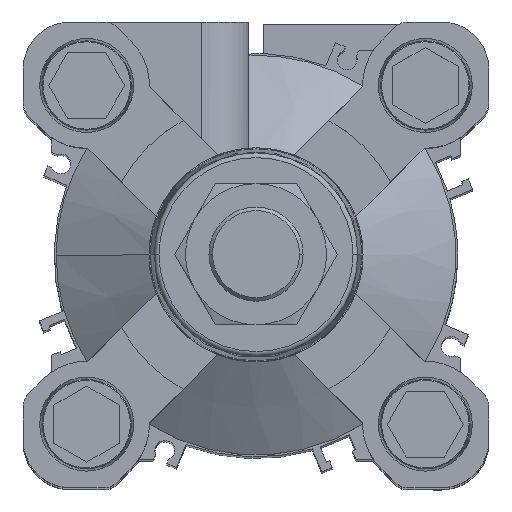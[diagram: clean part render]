
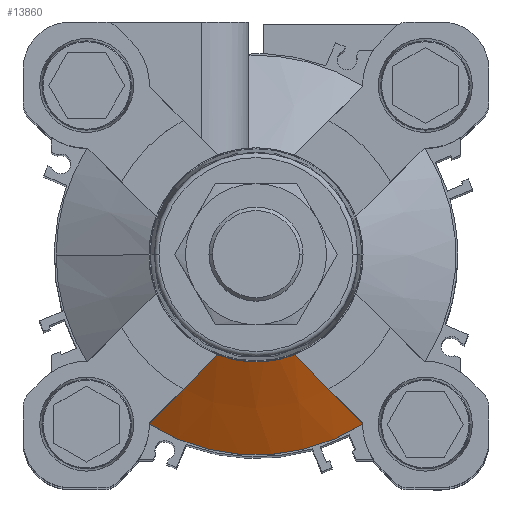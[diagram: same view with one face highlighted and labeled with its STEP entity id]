
A CAD part, top view. The second image highlights one B-rep face of the part: STEP entity #13860.
In plain terms, the highlighted conical face has half-angle 60 degrees and reference radius 42.5 mm.
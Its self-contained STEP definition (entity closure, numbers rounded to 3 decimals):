
#30 = CARTESIAN_POINT ( 'NONE',  ( 22.65, -35.961, 7.997 ) ) ;
#647 = B_SPLINE_CURVE_WITH_KNOTS ( 'NONE', 3,
 ( #6529, #1063, #13430, #5937, #4843, #8034 ),
 .UNSPECIFIED., .F., .F.,
 ( 4, 2, 4 ),
 ( 0., 0.012, 0.023 ),
 .UNSPECIFIED. ) ;
#701 = FACE_OUTER_BOUND ( 'NONE', #12477, .T. ) ;
#769 = ORIENTED_EDGE ( 'NONE', *, *, #5330, .F. ) ;
#788 = AXIS2_PLACEMENT_3D ( 'NONE', #10344, #7976, #11352 ) ;
#1063 = CARTESIAN_POINT ( 'NONE',  ( 10.596, -23.678, 17.58 ) ) ;
#1146 = CARTESIAN_POINT ( 'NONE',  ( -8.156, -21.238, 19.4 ) ) ;
#1439 = EDGE_CURVE ( 'NONE', #11637, #5550, #3741, .T. ) ;
#1718 = CARTESIAN_POINT ( 'NONE',  ( 22.653, -35.734, 8.107 ) ) ;
#1836 = DIRECTION ( 'NONE',  ( 0., 0., -1. ) ) ;
#2033 = EDGE_CURVE ( 'NONE', #7411, #7585, #2295, .T. ) ;
#2295 = B_SPLINE_CURVE_WITH_KNOTS ( 'NONE', 3,
 ( #8158, #12629, #11480, #8235 ),
 .UNSPECIFIED., .F., .F.,
 ( 4, 4 ),
 ( 0., 0. ),
 .UNSPECIFIED. ) ;
#3741 = CIRCLE ( 'NONE', #9965, 22.75 ) ;
#4482 = CARTESIAN_POINT ( 'NONE',  ( 22.651, -35.81, 8.071 ) ) ;
#4843 = CARTESIAN_POINT ( 'NONE',  ( 20.249, -33.331, 10.022 ) ) ;
#5177 = CARTESIAN_POINT ( 'NONE',  ( 8.156, -21.238, 19.4 ) ) ;
#5330 = EDGE_CURVE ( 'NONE', #6929, #7411, #11840, .T. ) ;
#5468 = CARTESIAN_POINT ( 'NONE',  ( -17.843, -30.924, 11.929 ) ) ;
#5550 = VERTEX_POINT ( 'NONE', #13859 ) ;
#5827 = CARTESIAN_POINT ( 'NONE',  ( -22.653, -35.734, 8.107 ) ) ;
#5937 = CARTESIAN_POINT ( 'NONE',  ( 17.843, -30.924, 11.929 ) ) ;
#6207 = DIRECTION ( 'NONE',  ( 0., 0., -1. ) ) ;
#6377 = ORIENTED_EDGE ( 'NONE', *, *, #11440, .F. ) ;
#6465 = CARTESIAN_POINT ( 'NONE',  ( -13.016, -26.097, 15.707 ) ) ;
#6485 = B_SPLINE_CURVE_WITH_KNOTS ( 'NONE', 3,
 ( #6752, #13233, #5468, #6465, #8700, #1146 ),
 .UNSPECIFIED., .F., .F.,
 ( 4, 2, 4 ),
 ( 0., 0.012, 0.023 ),
 .UNSPECIFIED. ) ;
#6529 = CARTESIAN_POINT ( 'NONE',  ( 8.156, -21.238, 19.4 ) ) ;
#6752 = CARTESIAN_POINT ( 'NONE',  ( -22.653, -35.734, 8.107 ) ) ;
#6929 = VERTEX_POINT ( 'NONE', #30 ) ;
#7326 = DIRECTION ( 'NONE',  ( -1., 0., 0. ) ) ;
#7358 = CARTESIAN_POINT ( 'NONE',  ( 0., 0., 19.4 ) ) ;
#7411 = VERTEX_POINT ( 'NONE', #12962 ) ;
#7585 = VERTEX_POINT ( 'NONE', #5827 ) ;
#7727 = ORIENTED_EDGE ( 'NONE', *, *, #1439, .T. ) ;
#7804 = CARTESIAN_POINT ( 'NONE',  ( 22.653, -35.734, 8.107 ) ) ;
#7930 = CARTESIAN_POINT ( 'NONE',  ( 22.65, -35.886, 8.034 ) ) ;
#7976 = DIRECTION ( 'NONE',  ( 0., 0., -1. ) ) ;
#8034 = CARTESIAN_POINT ( 'NONE',  ( 22.653, -35.734, 8.107 ) ) ;
#8158 = CARTESIAN_POINT ( 'NONE',  ( -22.65, -35.961, 7.997 ) ) ;
#8235 = CARTESIAN_POINT ( 'NONE',  ( -22.653, -35.734, 8.107 ) ) ;
#8243 = AXIS2_PLACEMENT_3D ( 'NONE', #11721, #1836, #7326 ) ;
#8287 = DIRECTION ( 'NONE',  ( -1., 0., 0. ) ) ;
#8700 = CARTESIAN_POINT ( 'NONE',  ( -10.596, -23.678, 17.58 ) ) ;
#9431 = B_SPLINE_CURVE_WITH_KNOTS ( 'NONE', 3,
 ( #7804, #4482, #7930, #11922 ),
 .UNSPECIFIED., .F., .F.,
 ( 4, 4 ),
 ( 0., 0. ),
 .UNSPECIFIED. ) ;
#9811 = ORIENTED_EDGE ( 'NONE', *, *, #2033, .F. ) ;
#9965 = AXIS2_PLACEMENT_3D ( 'NONE', #7358, #6207, #8287 ) ;
#10344 = CARTESIAN_POINT ( 'NONE',  ( 0., 0., 7.997 ) ) ;
#10998 = ORIENTED_EDGE ( 'NONE', *, *, #11054, .F. ) ;
#11054 = EDGE_CURVE ( 'NONE', #11637, #11525, #647, .T. ) ;
#11352 = DIRECTION ( 'NONE',  ( -1., 0., 0. ) ) ;
#11440 = EDGE_CURVE ( 'NONE', #11525, #6929, #9431, .T. ) ;
#11480 = CARTESIAN_POINT ( 'NONE',  ( -22.651, -35.81, 8.071 ) ) ;
#11525 = VERTEX_POINT ( 'NONE', #1718 ) ;
#11637 = VERTEX_POINT ( 'NONE', #5177 ) ;
#11721 = CARTESIAN_POINT ( 'NONE',  ( 0., 0., 7.997 ) ) ;
#11840 = CIRCLE ( 'NONE', #788, 42.5 ) ;
#11922 = CARTESIAN_POINT ( 'NONE',  ( 22.65, -35.961, 7.997 ) ) ;
#11929 = ORIENTED_EDGE ( 'NONE', *, *, #14046, .F. ) ;
#12477 = EDGE_LOOP ( 'NONE', ( #9811, #769, #6377, #10998, #7727, #11929 ) ) ;
#12629 = CARTESIAN_POINT ( 'NONE',  ( -22.65, -35.886, 8.034 ) ) ;
#12962 = CARTESIAN_POINT ( 'NONE',  ( -22.65, -35.961, 7.997 ) ) ;
#13233 = CARTESIAN_POINT ( 'NONE',  ( -20.249, -33.331, 10.022 ) ) ;
#13430 = CARTESIAN_POINT ( 'NONE',  ( 13.016, -26.097, 15.707 ) ) ;
#13859 = CARTESIAN_POINT ( 'NONE',  ( -8.156, -21.238, 19.4 ) ) ;
#13860 = ADVANCED_FACE ( 'NONE', ( #701 ), #14231, .T. ) ;
#14046 = EDGE_CURVE ( 'NONE', #7585, #5550, #6485, .T. ) ;
#14231 = CONICAL_SURFACE ( 'NONE', #8243, 42.5, 1.047 ) ;
